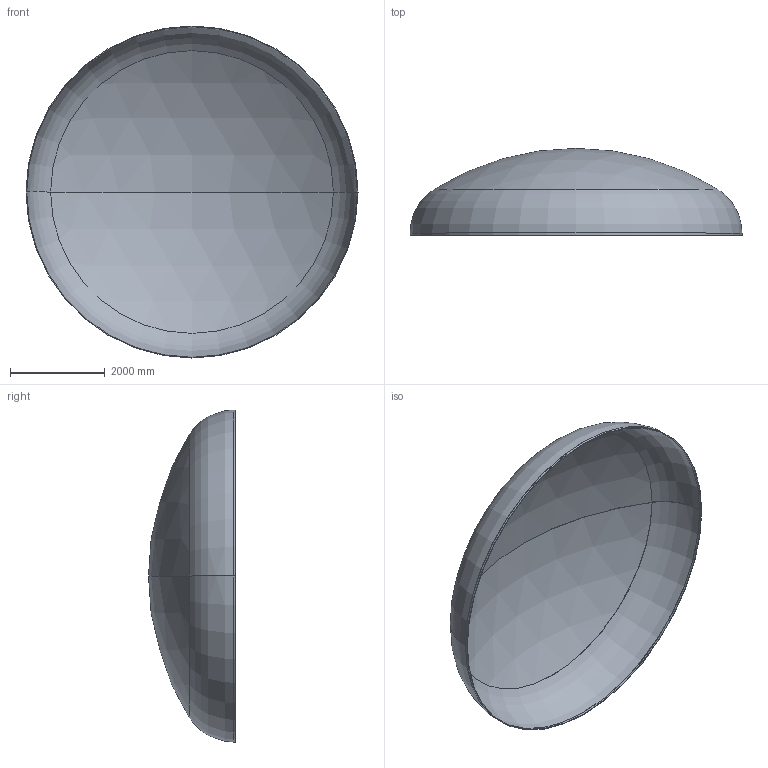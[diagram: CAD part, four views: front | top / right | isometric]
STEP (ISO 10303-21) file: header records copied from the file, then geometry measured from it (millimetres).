
FILE_DESCRIPTION (( 'STEP AP203' ), '1' );
FILE_NAME ('DIN 28013 Korbbogenform_-_Boden DIN 28013 - 7000 x 45 - I - s=14.step', '2016-07-04T10:45:18', ( '' ), ( '' ), 'SwSTEP 2.0', 'SolidWorks 2013', '' );
FILE_SCHEMA (( 'CONFIG_CONTROL_DESIGN' ));
Length unit declared in the file: millimetre
Products named in the file (1): DIN 28013 Korbbogenform_-_Boden DIN 28013 - 7000 x 45 - I - s=14
Bounding box: 7000 x 1832.57 x 7000 mm (x, y, z)
Volume: 758399157.5 mm3; surface area: 108650362.9 mm2
Topology: 1 solids, 1 shells, 13 faces, 24 edges, 14 vertices
Faces by surface type: torus 4, cylinder 4, sphere 4, plane 1
Entity records: 407 total; most frequent: DIRECTION 72, CARTESIAN_POINT 52, ORIENTED_EDGE 48, AXIS2_PLACEMENT_3D 34, EDGE_CURVE 24, CIRCLE 20, VERTEX_POINT 14, EDGE_LOOP 14
